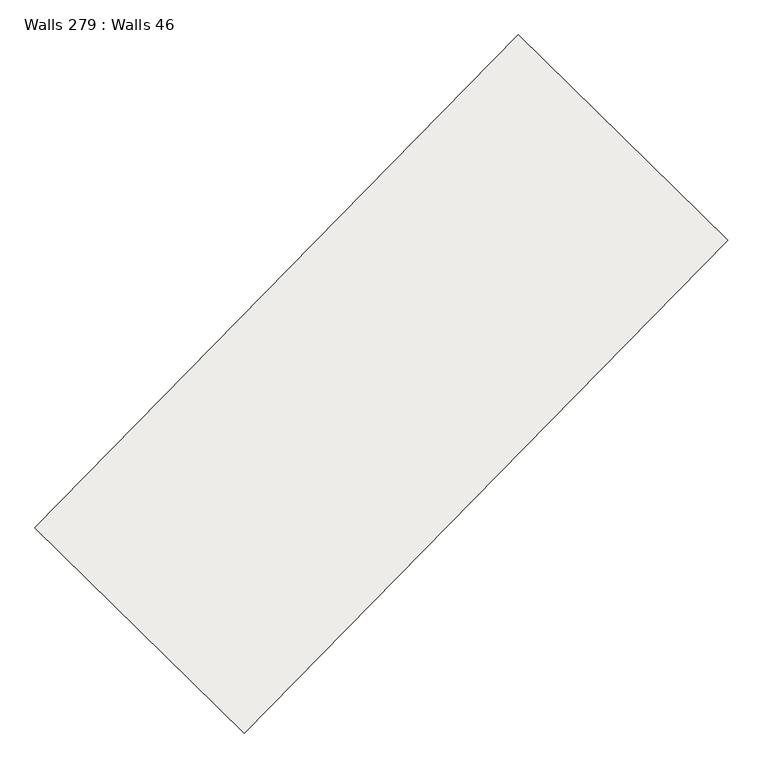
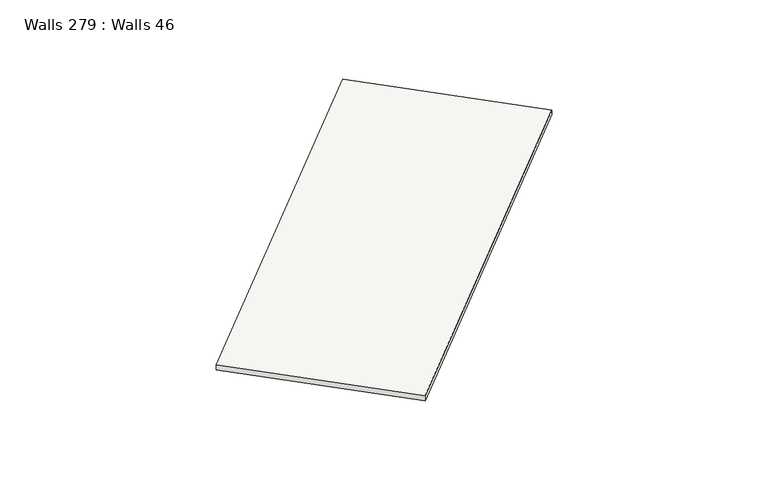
"""IFC4 building model written with IfcOpenShell, lengths in millimetres: slab geometry, Walls 279 : Walls 46."""

from ifc_helpers import new_model, si_unit, frame, origin, place, context, project, spatial, polyline, outline, extrude, source, transform, mapped, element, save


def walls_279_walls_46_5c07c3dc(model_context):
    return source(origin(), model_context, "Body", "SweptSolid", [
        extrude(outline(polyline([(-50.0, 0.0), (50.0, 0.0), (-40.0, -8699.9999996), (-140.0, -8699.9999996), (-50.0, 0.0)])), frame((-103541.5202798, -264855.7280937, 636540.0), z_axis=(-0.7137361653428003, 0.7004146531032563, 0.0), x_axis=(0.0, 0.0, 1.0)), (0.0, 0.0, 1.0), 3699.999995),
    ])


if __name__ == "__main__":
    model = new_model("IFC4")
    model_context = context("Model", 3, world=origin())
    ifc_project = project(units=[si_unit("LENGTHUNIT", "METRE", prefix="MILLI")], contexts=[model_context])
    site = spatial("IfcSite", under=ifc_project)
    building = spatial("IfcBuilding", under=site)
    placement = place(None, origin())
    walls_279_walls_46_shape = walls_279_walls_46_5c07c3dc(model_context)
    element("IfcSlab", 1, ObjectType="Walls 279 : Walls 46", at=placement, inside=building, context=model_context, shape_type="MappedRepresentation", body=[
        mapped(walls_279_walls_46_shape, transform((0.0, 0.0, 0.0), x_axis=(1.0, 0.0, 0.0), y_axis=(0.0, 1.0, 0.0), z_axis=(0.0, 0.0, 1.0))),
    ])
    save(model, "model.ifc")
